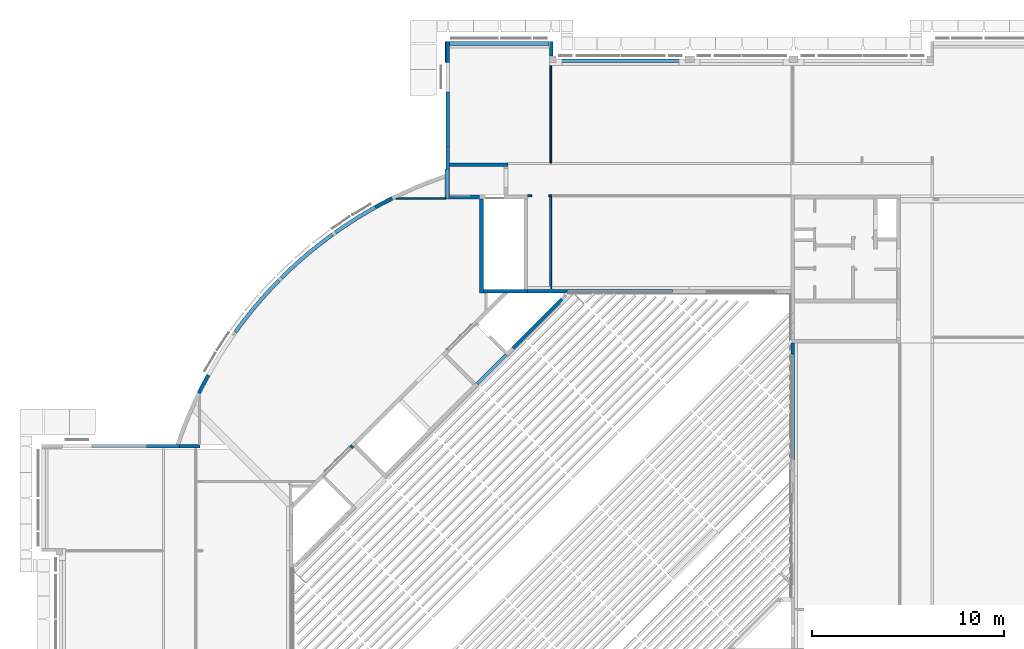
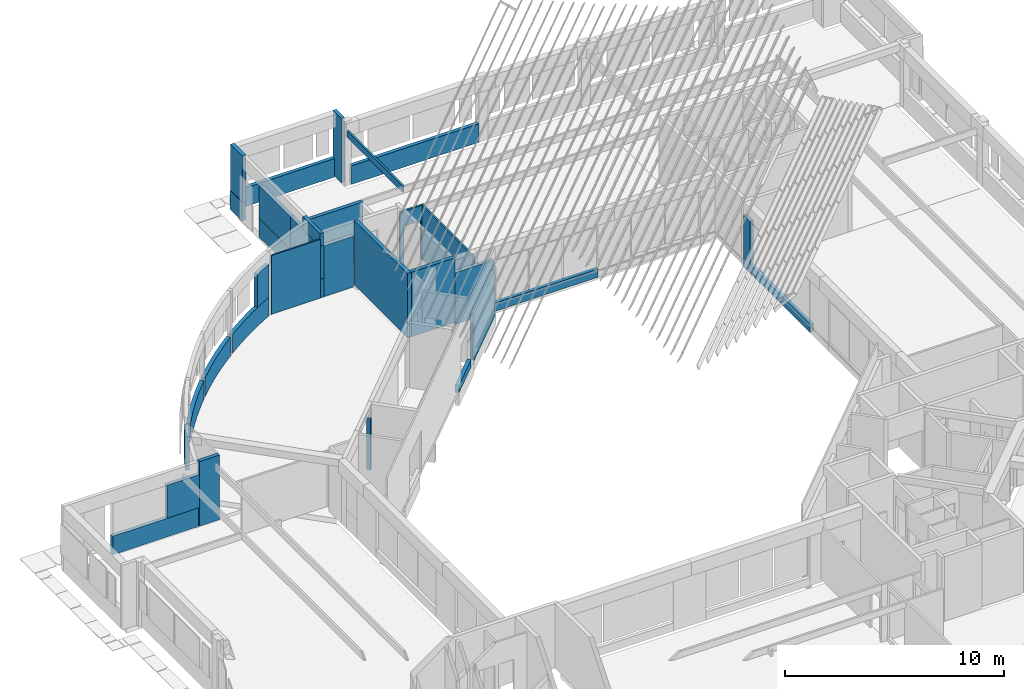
# One storey, part 29 of 37: 32 walls.
"""IFC4X3_ADD2 building model written with IfcOpenShell, lengths in millimetres."""

import ifcopenshell
import ifcopenshell.guid

model = None  # the IFC model being written
_history = None  # IfcOwnerHistory: only IFC2X3 demands one
_inside = {}  # id of a spatial element -> (the spatial element, [elements in it])
_under = {}  # id of a project, library or spatial element -> (it, [spatial elements below it])
_declared = {}  # id of a project -> (the project, [libraries it declares])
_typed = {}  # id of a type object -> (the type object, [elements of that type])
_made_of = {}  # id of a material, layer set ... -> (it, [elements and type objects made of it])


def new_model(schema):
    """Start an empty IFC model of exactly this schema.

    Asked for "IFC4X3", IfcOpenShell would pick the latest addendum, in which some entities
    have other attributes; the version numbers below select the first issue.
    IFC2X3 requires an IfcOwnerHistory on every rooted entity: one is made here for all.
    """
    global model, _history
    if schema == "IFC4X3":
        model = ifcopenshell.file(schema_version=(4, 3, 0, 0))
    else:
        model = ifcopenshell.file(schema=schema)
    _inside.clear()
    _under.clear()
    _declared.clear()
    _typed.clear()
    _made_of.clear()
    _history = None
    if model.schema == "IFC2X3":
        org = make("IfcOrganization", Name="unknown")
        user = make(
            "IfcPersonAndOrganization",
            ThePerson=make("IfcPerson", FamilyName="unknown"),
            TheOrganization=org,
        )
        app = make(
            "IfcApplication",
            ApplicationDeveloper=org,
            Version="unknown",
            ApplicationFullName="unknown",
            ApplicationIdentifier="unknown",
        )
        _history = make(
            "IfcOwnerHistory",
            OwningUser=user,
            OwningApplication=app,
            ChangeAction="ADDED",
            CreationDate=0,
        )
    return model


def make(cls, **values):
    """One entity of the class cls with the attributes given. An attribute that is None is left unset."""
    return model.create_entity(
        cls, **{name: value for name, value in values.items() if value is not None}
    )


def rooted(cls, **values):
    """An entity with a GlobalId (a new one), such as an element, a storey or a relation."""
    return make(cls, GlobalId=ifcopenshell.guid.new(), OwnerHistory=_history, **values)


def si_unit(unit_type, name, prefix=None):
    """IfcSIUnit, for example si_unit("LENGTHUNIT", "METRE", prefix="MILLI")."""
    return make("IfcSIUnit", UnitType=unit_type, Prefix=prefix, Name=name)


def assignment(units):
    """IfcUnitAssignment: the units of a project."""
    return None if units is None else make("IfcUnitAssignment", Units=units)


def point(xyz):
    """IfcCartesianPoint."""
    return None if xyz is None else make("IfcCartesianPoint", Coordinates=xyz)


def direction(xyz):
    """IfcDirection."""
    return None if xyz is None else make("IfcDirection", DirectionRatios=xyz)


def frame(location, z_axis=None, x_axis=None):
    """IfcAxis2Placement3D, a coordinate frame: its origin and axes. An axis left out is left unset."""
    return make(
        "IfcAxis2Placement3D",
        Location=point(location),
        Axis=direction(z_axis),
        RefDirection=direction(x_axis),
    )


def frame_2d(location, x_axis=None):
    """IfcAxis2Placement2D, a coordinate frame in the plane: its origin and x axis."""
    return make(
        "IfcAxis2Placement2D", Location=point(location), RefDirection=direction(x_axis)
    )


def origin_with_axes():
    """The frame at (0, 0, 0) with the z axis (0, 0, 1) and the x axis (1, 0, 0) written out."""
    return frame((0.0, 0.0, 0.0), z_axis=(0.0, 0.0, 1.0), x_axis=(1.0, 0.0, 0.0))


def origin_2d_with_axis():
    """The frame at (0, 0) in the plane with the x axis (1, 0) written out."""
    return frame_2d((0.0, 0.0), x_axis=(1.0, 0.0))


def place(relative_to, where):
    """IfcLocalPlacement: puts the frame where relative to a parent placement (None: the world)."""
    return make(
        "IfcLocalPlacement", PlacementRelTo=relative_to, RelativePlacement=where
    )


def context(
    kind, dimensions, precision=None, world=None, true_north=None, identifier=None
):
    """IfcGeometricRepresentationContext, for example the 3D "Model" context."""
    return make(
        "IfcGeometricRepresentationContext",
        ContextIdentifier=identifier,
        ContextType=kind,
        CoordinateSpaceDimension=dimensions,
        Precision=precision,
        WorldCoordinateSystem=world,
        TrueNorth=true_north,
    )


def subcontext(parent, identifier, kind, view, scale=None):
    """IfcGeometricRepresentationSubContext, for example "Body" below "Model"."""
    return make(
        "IfcGeometricRepresentationSubContext",
        ContextIdentifier=identifier,
        ContextType=kind,
        ParentContext=parent,
        TargetScale=scale,
        TargetView=view,
    )


def project(units=None, contexts=None):
    """IfcProject with its units and contexts."""
    return rooted(
        "IfcProject",
        Name="project",
        RepresentationContexts=contexts,
        UnitsInContext=assignment(units),
    )


def spatial(cls, under=None, at=None, **own):
    """A site, building, storey or space (cls), placed at a placement, below another one or the project."""
    s = rooted(cls, ObjectPlacement=at, **own)
    if under is not None:
        _under.setdefault(under.id(), (under, []))[1].append(s)
    return s


def polyline(points):
    """IfcPolyline through the points."""
    return make("IfcPolyline", Points=[point(p) for p in points])


def circle_curve(where, radius):
    """IfcCircle in the frame where."""
    return make("IfcCircle", Position=where, Radius=radius)


def trimmed(basis, trim1, trim2, sense, master):
    """IfcTrimmedCurve: the piece of a basis curve between two trims."""
    return make(
        "IfcTrimmedCurve",
        BasisCurve=basis,
        Trim1=trim1,
        Trim2=trim2,
        SenseAgreement=sense,
        MasterRepresentation=master,
    )


def segment(curve, same_sense, transition):
    """IfcCompositeCurveSegment."""
    return make(
        "IfcCompositeCurveSegment",
        Transition=transition,
        SameSense=same_sense,
        ParentCurve=curve,
    )


def composite_curve(segments, self_intersect=None):
    """IfcCompositeCurve: segments joined end to end."""
    return make("IfcCompositeCurve", Segments=segments, SelfIntersect=self_intersect)


def profile(cls, at=None, kind="AREA", **sizes):
    """A parametric profile (cls). Its sizes go by their IFC names, for example OverallWidth=200.0."""
    return make(cls, ProfileType=kind, Position=at, **sizes)


def rectangle(**sizes):
    """IfcRectangleProfileDef."""
    return profile("IfcRectangleProfileDef", **sizes)


def outline(outer, holes=None, kind="AREA"):
    """IfcArbitraryClosedProfileDef: a profile drawn as a closed curve; with holes, ...WithVoids."""
    if holes is None:
        return make("IfcArbitraryClosedProfileDef", ProfileType=kind, OuterCurve=outer)
    return make(
        "IfcArbitraryProfileDefWithVoids",
        ProfileType=kind,
        OuterCurve=outer,
        InnerCurves=holes,
    )


def extrude(swept, where, along, depth):
    """IfcExtrudedAreaSolid: the profile swept, set in the frame where, extruded along a direction by depth."""
    return make(
        "IfcExtrudedAreaSolid",
        SweptArea=swept,
        Position=where,
        ExtrudedDirection=direction(along),
        Depth=depth,
    )


def shape(context_of_items, identifier, shape_type, items):
    """IfcShapeRepresentation: the items that make up one representation, for example the "Body"."""
    return make(
        "IfcShapeRepresentation",
        ContextOfItems=context_of_items,
        RepresentationIdentifier=identifier,
        RepresentationType=shape_type,
        Items=items,
    )


def source(mapping_origin, context_of_items, identifier, shape_type, items):
    """IfcRepresentationMap: a shape defined once, which mapped items show again and again."""
    return make(
        "IfcRepresentationMap",
        MappingOrigin=mapping_origin,
        MappedRepresentation=shape(context_of_items, identifier, shape_type, items),
    )


def transform(
    local_origin,
    x_axis=None,
    y_axis=None,
    z_axis=None,
    scale=None,
    scale2=None,
    scale3=None,
    uniform=True,
):
    """IfcCartesianTransformationOperator3D, or its non-uniform kind. x_axis, y_axis, z_axis: its Axis1, 2, 3."""
    if uniform:
        return make(
            "IfcCartesianTransformationOperator3D",
            Axis1=direction(x_axis),
            Axis2=direction(y_axis),
            LocalOrigin=point(local_origin),
            Scale=scale,
            Axis3=direction(z_axis),
        )
    return make(
        "IfcCartesianTransformationOperator3DnonUniform",
        Axis1=direction(x_axis),
        Axis2=direction(y_axis),
        LocalOrigin=point(local_origin),
        Scale=scale,
        Axis3=direction(z_axis),
        Scale2=scale2,
        Scale3=scale3,
    )


def mapped(mapping_source, mapping_target):
    """IfcMappedItem: shows the shape of a source again, moved by a transform."""
    return make(
        "IfcMappedItem", MappingSource=mapping_source, MappingTarget=mapping_target
    )


def material(Name=None, Category=None):
    """IfcMaterial."""
    return make("IfcMaterial", Name=Name, Category=Category)


def made_of(thing, what):
    """Note that an element or type object is made of a material, layer set ...; save() writes the relation."""
    if what is not None:
        _made_of.setdefault(what.id(), (what, []))[1].append(thing)
    return thing


def type_object(cls, material=None, **own):
    """A type object (cls), such as IfcWallType, which elements share."""
    return made_of(rooted(cls, **own), material)


def type_shapes(of_type, sources):
    """Give a type object the sources (RepresentationMaps) that its elements show as mapped items."""
    of_type.RepresentationMaps = sources


def element(
    cls,
    number,
    at=None,
    inside=None,
    cuts=None,
    type_object=None,
    material=None,
    context=None,
    identifier="Body",
    shape_type=None,
    held_by="IfcProductDefinitionShape",
    body=None,
    shapes=None,
    **own,
):
    """One element of the class cls, such as IfcWall. Its Tag is "e" and its number.

    at: its placement. inside: the storey or other place that contains it. cuts: it is an
    opening in that element (IfcRelVoidsElement). A single representation is given by context,
    identifier, shape_type and body (its items); several are given by shapes. held_by: the class
    of the entity that holds the representations. save() writes the other relations.
    """
    e = rooted(cls, Tag="e%d" % number, ObjectPlacement=at, **own)
    if body is not None:
        shapes = [shape(context, identifier, shape_type, body)]
    if shapes is not None:
        e.Representation = make(held_by, Representations=shapes)
    if inside is not None:
        _inside.setdefault(inside.id(), (inside, []))[1].append(e)
    if cuts is not None:
        rooted(
            "IfcRelVoidsElement", RelatingBuildingElement=cuts, RelatedOpeningElement=e
        )
    if type_object is not None:
        _typed.setdefault(type_object.id(), (type_object, []))[1].append(e)
    return made_of(e, material)


def aggregate(whole, parts):
    """IfcRelAggregates: a whole, such as a stair, and the parts it consists of."""
    return rooted("IfcRelAggregates", RelatingObject=whole, RelatedObjects=parts)


def save(model, path):
    """Write the relations noted so far, then the file.

    IfcRelAggregates (storeys below a building ...), IfcRelContainedInSpatialStructure (elements
    in a storey), IfcRelDefinesByType, IfcRelAssociatesMaterial and IfcRelDeclares: one each for
    every whole, place, type object, material and project.
    """
    for whole, parts in _under.values():
        aggregate(whole, parts)
    for where, things in _inside.values():
        rooted(
            "IfcRelContainedInSpatialStructure",
            RelatedElements=things,
            RelatingStructure=where,
        )
    for kind, things in _typed.values():
        rooted("IfcRelDefinesByType", RelatedObjects=things, RelatingType=kind)
    for what, things in _made_of.values():
        rooted("IfcRelAssociatesMaterial", RelatedObjects=things, RelatingMaterial=what)
    for by, libraries in _declared.values():
        rooted("IfcRelDeclares", RelatingContext=by, RelatedDefinitions=libraries)
    model.write(path)


model = new_model("IFC4X3_ADD2")

# Units and contexts
model_context = context("Model", 3, precision=1e-05, world=origin_with_axes(), true_north=direction((0.0, 1.0)))
body_context = subcontext(model_context, "Body", "Model", "MODEL_VIEW")
ifc_project = project(units=[si_unit("LENGTHUNIT", "METRE", prefix="MILLI"), si_unit("AREAUNIT", "SQUARE_METRE"), si_unit("VOLUMEUNIT", "CUBIC_METRE"), si_unit("PLANEANGLEUNIT", "RADIAN"), si_unit("TIMEUNIT", "SECOND"), si_unit("MASSUNIT", "GRAM")], contexts=[model_context])

# Site, building, storey
site_placement = place(None, origin_with_axes())
site = spatial("IfcSite", under=ifc_project, at=site_placement, Name="Site", CompositionType="ELEMENT")
building_placement = place(site_placement, origin_with_axes())
building = spatial("IfcBuilding", under=site, at=building_placement, Name="IFC Building Story")
storey_placement = place(building_placement, frame((0.0, 0.0, 3600.0), z_axis=(0.0, 0.0, 1.0), x_axis=(1.0, 0.0, 0.0)))
storey = spatial("IfcBuildingStorey", under=building, at=storey_placement, Name="010", Elevation=3600.0)

# Walls
ifc_material_1 = material(Name="BB_Beton_Bestaand")
wall_type_1 = type_object("IfcWallType", Name="BB_Beton_Bestaand 200", PredefinedType="NOTDEFINED", material=ifc_material_1)
wall_1_placement = place(storey_placement, origin_with_axes())
element("IfcWall", 1, at=wall_1_placement, inside=storey, type_object=wall_type_1, Name="Basic Wall:BB_XX_Wand uit beton, 200 mm", ObjectType="Basic Wall:BB_XX_Wand uit beton, 200 mm", PredefinedType="SOLIDWALL", context=body_context, shape_type="SweptSolid", body=[
    extrude(rectangle(XDim=4900.004065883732, YDim=200.0, at=frame_2d((0.0, 0.0), x_axis=(0.0, 1.0))), frame((-28800.0, 41049.99796705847, -80.0), z_axis=(0.0, 0.0, 1.0), x_axis=(1.0, 0.0, 0.0)), (0.0, 0.0, 1.0), 3600.0),
])
wall_2_placement = place(storey_placement, origin_with_axes())
element("IfcWall", 2, at=wall_2_placement, inside=storey, type_object=wall_type_1, Name="Basic Wall:BB_XX_Wand uit beton, 200 mm", ObjectType="Basic Wall:BB_XX_Wand uit beton, 200 mm", PredefinedType="SOLIDWALL", context=body_context, shape_type="SweptSolid", body=[
    extrude(rectangle(XDim=2299.999999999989, YDim=200.0, at=origin_2d_with_axis()), frame((-27550.0, 38699.9959341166, -80.0), z_axis=(0.0, 0.0, 1.0), x_axis=(1.0, 0.0, 0.0)), (0.0, 0.0, 1.0), 3600.0),
])
wall_3_placement = place(storey_placement, origin_with_axes())
element("IfcWall", 3, at=wall_3_placement, inside=storey, type_object=wall_type_1, Name="Basic Wall:BB_XX_Wand uit beton, 200 mm", ObjectType="Basic Wall:BB_XX_Wand uit beton, 200 mm", PredefinedType="SOLIDWALL", context=body_context, shape_type="SweptSolid", body=[
    extrude(outline(composite_curve([segment(polyline([(-1251.023506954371, -1193.744815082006), (-1392.002352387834, -1051.882328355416)]), True, "CONTINUOUS"), segment(trimmed(circle_curve(frame_2d((14368.14825191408, -16910.81597924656), x_axis=(1.0, 0.0)), 22358.17800299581), [point((-1392.002352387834, -1051.882328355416))], [point((1262.897910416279, 1203.833813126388))], False, "CARTESIAN"), True, "CONTINUOUS"), segment(polyline([(1262.897910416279, 1203.833813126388), (1380.127948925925, 1041.793330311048)]), True, "CONTINUOUS"), segment(trimmed(circle_curve(frame_2d((14368.14825191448, -16910.81597924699), x_axis=(1.0, 0.0)), 22158.17800299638), [point((1380.127948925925, 1041.793330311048))], [point((-1251.023506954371, -1193.744815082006))], True, "CARTESIAN"), True, "CONTINUOUS")], self_intersect=False)), frame((-37884.99629807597, 40529.06922303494, -200.0), z_axis=(0.0, 0.0, 1.0), x_axis=(1.0, 0.0, 0.0)), (0.0, 0.0, 1.0), 1040.0),
])
wall_4_placement = place(storey_placement, origin_with_axes())
element("IfcWall", 4, at=wall_4_placement, inside=storey, type_object=wall_type_1, Name="Basic Wall:BB_XX_Wand uit beton, 200 mm", ObjectType="Basic Wall:BB_XX_Wand uit beton, 200 mm", PredefinedType="SOLIDWALL", context=body_context, shape_type="SweptSolid", body=[
    extrude(outline(composite_curve([segment(polyline([(-1048.715508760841, -1398.380317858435), (-1211.293963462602, -1281.897503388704)]), True, "CONTINUOUS"), segment(trimmed(circle_curve(frame_2d((16963.49618491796, -14303.61500439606), x_axis=(1.0, 0.0)), 22358.1780029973), [point((-1211.293963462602, -1281.897503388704))], [point((1058.86912273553, 1410.422084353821))], False, "CARTESIAN"), True, "CONTINUOUS"), segment(polyline([(1058.86912273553, 1410.422084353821), (1201.140349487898, 1269.85573689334)]), True, "CONTINUOUS"), segment(trimmed(circle_curve(frame_2d((16963.49618491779, -14303.61500439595), x_axis=(1.0, 0.0)), 22158.17800299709), [point((1201.140349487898, 1269.85573689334))], [point((-1048.715508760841, -1398.380317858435))], True, "CARTESIAN"), True, "CONTINUOUS")], self_intersect=False)), frame((-40480.34423107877, 37921.86824818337, -200.0), z_axis=(0.0, 0.0, 1.0), x_axis=(1.0, 0.0, 0.0)), (0.0, 0.0, 1.0), 1040.0),
])
wall_5_placement = place(storey_placement, origin_with_axes())
element("IfcWall", 5, at=wall_5_placement, inside=storey, type_object=wall_type_1, Name="Basic Wall:BB_XX_Wand uit beton, 200 mm", ObjectType="Basic Wall:BB_XX_Wand uit beton, 200 mm", PredefinedType="SOLIDWALL", context=body_context, shape_type="SweptSolid", body=[
    extrude(outline(composite_curve([segment(polyline([(-1417.590394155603, -965.8006909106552), (-1533.351921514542, -802.7078683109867)]), True, "CONTINUOUS"), segment(trimmed(circle_curve(frame_2d((11407.73225144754, -19034.99966177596), x_axis=(1.0, 0.0)), 22358.17800299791), [point((-1533.351921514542, -802.7078683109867))], [point((1430.848183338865, 973.7461236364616))], False, "CARTESIAN"), True, "CONTINUOUS"), segment(polyline([(1430.848183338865, 973.7461236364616), (1520.094132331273, 794.7624355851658)]), True, "CONTINUOUS"), segment(trimmed(circle_curve(frame_2d((11407.7322514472, -19034.99966177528), x_axis=(1.0, 0.0)), 22158.17800299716), [point((1520.094132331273, 794.7624355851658))], [point((-1417.590394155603, -965.8006909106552))], True, "CARTESIAN"), True, "CONTINUOUS")], self_intersect=False)), frame((-34924.58029760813, 42653.25290556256, -200.0), z_axis=(0.0, 0.0, 1.0), x_axis=(1.0, 0.0, 0.0)), (0.0, 0.0, 1.0), 1040.0),
])
wall_type_2 = type_object("IfcWallType", Name="BB_Beton_Bestaand 190", PredefinedType="NOTDEFINED", material=ifc_material_1)
wall_6_placement = place(storey_placement, origin_with_axes())
element("IfcWall", 6, at=wall_6_placement, inside=storey, type_object=wall_type_2, Name="Basic Wall:BB_XX_Wand uit beton, 190 mm", ObjectType="Basic Wall:BB_XX_Wand uit beton, 190 mm", PredefinedType="SOLIDWALL", context=body_context, shape_type="SweptSolid", body=[
    extrude(rectangle(XDim=6710.000000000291, YDim=189.9999999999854, at=origin_2d_with_axis()), frame((-21565.00000000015, 50700.0, -200.0), z_axis=(0.0, 0.0, 1.0), x_axis=(1.0, 0.0, 0.0)), (0.0, 0.0, 1.0), 1040.0),
])
wall_7_placement = place(storey_placement, origin_with_axes())
element("IfcWall", 7, at=wall_7_placement, inside=storey, type_object=wall_type_2, Name="Basic Wall:BB_XX_Wand uit beton, 190 mm", ObjectType="Basic Wall:BB_XX_Wand uit beton, 190 mm", PredefinedType="SOLIDWALL", context=body_context, shape_type="SweptSolid", body=[
    extrude(rectangle(XDim=5585.000000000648, YDim=190.0, at=frame_2d((0.0, 0.0), x_axis=(0.0, 1.0))), frame((-30565.0, 46292.50000000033, -200.0), z_axis=(0.0, 0.0, 1.0), x_axis=(1.0, 0.0, 0.0)), (0.0, 0.0, 1.0), 1040.0),
])
wall_8_placement = place(storey_placement, origin_with_axes())
element("IfcWall", 8, at=wall_8_placement, inside=storey, type_object=wall_type_2, Name="Basic Wall:BB_XX_Wand uit beton, 190 mm", ObjectType="Basic Wall:BB_XX_Wand uit beton, 190 mm", PredefinedType="SOLIDWALL", context=body_context, shape_type="SweptSolid", body=[
    extrude(rectangle(XDim=5210.000000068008, YDim=189.9999999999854, at=origin_2d_with_axis()), frame((-27899.999999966, 51600.0, -200.0), z_axis=(0.0, 0.0, 1.0), x_axis=(1.0, 0.0, 0.0)), (0.0, 0.0, 1.0), 1040.0),
])
wall_9_placement = place(storey_placement, origin_with_axes())
element("IfcWall", 9, at=wall_9_placement, inside=storey, type_object=wall_type_2, Name="Basic Wall:BB_XX_Wand uit beton, 190 mm", ObjectType="Basic Wall:BB_XX_Wand uit beton, 190 mm", PredefinedType="SOLIDWALL", context=body_context, shape_type="SweptSolid", body=[
    extrude(rectangle(XDim=1090.000000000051, YDim=190.0, at=frame_2d((0.0, 0.0), x_axis=(0.0, 1.0))), frame((-30565.0, 51150.00000000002, 840.0), z_axis=(0.0, 0.0, 1.0), x_axis=(1.0, 0.0, 0.0)), (0.0, 0.0, 1.0), 2560.0),
])
wall_10_placement = place(storey_placement, origin_with_axes())
element("IfcWall", 10, at=wall_10_placement, inside=storey, type_object=wall_type_2, Name="Basic Wall:BB_XX_Wand uit beton, 190 mm", ObjectType="Basic Wall:BB_XX_Wand uit beton, 190 mm", PredefinedType="SOLIDWALL", context=body_context, shape_type="SweptSolid", body=[
    extrude(rectangle(XDim=2055.000000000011, YDim=190.0, at=origin_2d_with_axis()), frame((-25372.5, 38699.9959341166, -200.0), z_axis=(0.0, 0.0, 1.0), x_axis=(1.0, 0.0, 0.0)), (0.0, 0.0, 1.0), 2880.0),
])
wall_11_placement = place(storey_placement, origin_with_axes())
element("IfcWall", 11, at=wall_11_placement, inside=storey, type_object=wall_type_2, Name="Basic Wall:BB_XX_Wand uit beton, 190 mm", ObjectType="Basic Wall:BB_XX_Wand uit beton, 190 mm", PredefinedType="SOLIDWALL", context=body_context, shape_type="SweptSolid", body=[
    extrude(rectangle(XDim=554.9999999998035, YDim=190.0, at=frame_2d((0.0, 0.0), x_axis=(0.0, 1.0))), frame((-12600.0040658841, 35722.4999999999, -200.0), z_axis=(0.0, 0.0, 1.0), x_axis=(1.0, 0.0, 0.0)), (0.0, 0.0, 1.0), 2880.0),
])
wall_12_placement = place(storey_placement, origin_with_axes())
element("IfcWall", 12, at=wall_12_placement, inside=storey, type_object=wall_type_2, Name="Basic Wall:BB_XX_Wand uit beton, 190 mm", ObjectType="Basic Wall:BB_XX_Wand uit beton, 190 mm", PredefinedType="SOLIDWALL", context=body_context, shape_type="SweptSolid", body=[
    extrude(rectangle(XDim=1090.000000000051, YDim=190.0, at=frame_2d((0.0, 0.0), x_axis=(0.0, 1.0))), frame((-30600.0, 51150.00000000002, -200.0), z_axis=(0.0, 0.0, 1.0), x_axis=(1.0, 0.0, 0.0)), (0.0, 0.0, 1.0), 1040.0),
])
wall_13_placement = place(storey_placement, origin_with_axes())
element("IfcWall", 13, at=wall_13_placement, inside=storey, type_object=wall_type_2, Name="Basic Wall:BB_XX_Wand uit beton, 190 mm", ObjectType="Basic Wall:BB_XX_Wand uit beton, 190 mm", PredefinedType="SOLIDWALL", context=body_context, shape_type="SweptSolid", body=[
    extrude(outline(composite_curve([segment(polyline([(-20907.29715946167, 6847.256785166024), (-25426.05542121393, 6847.256785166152)]), True, "CONTINUOUS"), segment(polyline([(-25426.05542121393, 6847.256785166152), (-25426.05542121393, 7037.256785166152)]), True, "CONTINUOUS"), segment(polyline([(-25426.05542121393, 7037.256785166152), (-20844.11228466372, 7037.256785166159)]), True, "CONTINUOUS"), segment(trimmed(circle_curve(origin_2d_with_axis(), 21999.99999990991), [point((-20844.11228466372, 7037.256785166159))], [point((-20907.29715946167, 6847.256785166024))], True, "CARTESIAN"), True, "CONTINUOUS")], self_intersect=False)), frame((-23658.94457878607, 23687.74321483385, -200.0), z_axis=(0.0, 0.0, 1.0), x_axis=(1.0, 0.0, 0.0)), (0.0, 0.0, 1.0), 1040.0),
])
wall_14_placement = place(storey_placement, origin_with_axes())
element("IfcWall", 14, at=wall_14_placement, inside=storey, type_object=wall_type_2, Name="Basic Wall:BB_XX_Wand uit beton, 190 mm", ObjectType="Basic Wall:BB_XX_Wand uit beton, 190 mm", PredefinedType="SOLIDWALL", context=body_context, shape_type="SweptSolid", body=[
    extrude(rectangle(XDim=5490.000000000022, YDim=190.0, at=frame_2d((0.0, 0.0), x_axis=(0.0, 1.0))), frame((-12600.0040658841, 32700.00000000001, -200.0), z_axis=(0.0, 0.0, 1.0), x_axis=(1.0, 0.0, 0.0)), (0.0, 0.0, 1.0), 449.999999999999),
])
wall_15_placement = place(storey_placement, origin_with_axes())
element("IfcWall", 15, at=wall_15_placement, inside=storey, type_object=wall_type_2, Name="Basic Wall:BB_XX_Wand uit beton, 190 mm", ObjectType="Basic Wall:BB_XX_Wand uit beton, 190 mm", PredefinedType="SOLIDWALL", context=body_context, shape_type="SweptSolid", body=[
    extrude(rectangle(XDim=5490.0, YDim=190.0, at=origin_2d_with_axis()), frame((-21600.0, 38699.9959341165, -200.0), z_axis=(0.0, 0.0, 1.0), x_axis=(1.0, 0.0, 0.0)), (0.0, 0.0, 1.0), 449.999999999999),
])
wall_type_3 = type_object("IfcWallType", Name="BB_Beton_Bestaand 170", PredefinedType="NOTDEFINED", material=ifc_material_1)
wall_16_placement = place(storey_placement, origin_with_axes())
element("IfcWall", 16, at=wall_16_placement, inside=storey, type_object=wall_type_3, Name="Basic Wall:BB_XX_Wand uit beton, 170 mm", ObjectType="Basic Wall:BB_XX_Wand uit beton, 170 mm", PredefinedType="SOLIDWALL", context=body_context, shape_type="SweptSolid", body=[
    extrude(rectangle(XDim=749.999999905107, YDim=169.9999999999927, at=frame_2d((0.0, 0.0), x_axis=(0.0, 1.0))), frame((-25175.0, 51320.00000004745, -200.0), z_axis=(0.0, 0.0, 1.0), x_axis=(1.0, 0.0, 0.0)), (0.0, 0.0, 1.0), 3600.0),
])
ifc_material_2 = material(Name="BB_Metselwerk_Bestaand")
wall_type_4 = type_object("IfcWallType", Name="BB_Metselwerk_Bestaand 190", PredefinedType="NOTDEFINED", material=ifc_material_2)
wall_17_placement = place(storey_placement, origin_with_axes())
element("IfcWall", 17, at=wall_17_placement, inside=storey, type_object=wall_type_4, Name="Basic Wall:BB_XX_Wand uit metselwerk, 190 mm", ObjectType="Basic Wall:BB_XX_Wand uit metselwerk, 190 mm", PredefinedType="SOLIDWALL", context=body_context, shape_type="SweptSolid", body=[
    extrude(rectangle(XDim=2725.0, YDim=190.0, at=frame_2d((0.0, 0.0), x_axis=(0.0, 1.0))), frame((-30565.0, 44872.5, 840.0), z_axis=(0.0, 0.0, 1.0), x_axis=(1.0, 0.0, 0.0)), (0.0, 0.0, 1.0), 1840.0),
])
wall_18_placement = place(storey_placement, origin_with_axes())
element("IfcWall", 18, at=wall_18_placement, inside=storey, type_object=wall_type_4, Name="Basic Wall:BB_XX_Wand uit metselwerk, 190 mm", ObjectType="Basic Wall:BB_XX_Wand uit metselwerk, 190 mm", PredefinedType="SOLIDWALL", context=body_context, shape_type="SweptSolid", body=[
    extrude(rectangle(XDim=1574.999999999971, YDim=190.0, at=frame_2d((0.0, 0.0), x_axis=(0.0, 1.0))), frame((-30600.0, 44287.49999999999, 2680.0), z_axis=(0.0, 0.0, 1.0), x_axis=(1.0, 0.0, 0.0)), (0.0, 0.0, 1.0), 720.000000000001),
])
wall_19_placement = place(storey_placement, origin_with_axes())
element("IfcWall", 19, at=wall_19_placement, inside=storey, type_object=wall_type_4, Name="Basic Wall:BB_XX_Wand uit metselwerk, 190 mm", ObjectType="Basic Wall:BB_XX_Wand uit metselwerk, 190 mm", PredefinedType="SOLIDWALL", context=body_context, shape_type="SweptSolid", body=[
    extrude(rectangle(XDim=1728.184999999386, YDim=190.0, at=origin_2d_with_axis()), frame((-45370.90750000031, 30630.0, 840.0), z_axis=(0.0, 0.0, 1.0), x_axis=(1.0, 0.0, 0.0)), (0.0, 0.0, 1.0), 1840.0),
])
wall_20_placement = place(storey_placement, origin_with_axes())
element("IfcWall", 20, at=wall_20_placement, inside=storey, type_object=wall_type_4, Name="Basic Wall:BB_XX_Wand uit metselwerk, 190 mm", ObjectType="Basic Wall:BB_XX_Wand uit metselwerk, 190 mm", PredefinedType="SOLIDWALL", context=body_context, shape_type="SweptSolid", body=[
    extrude(rectangle(XDim=1570.000000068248, YDim=189.9999999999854, at=origin_2d_with_axis()), frame((-29684.99999996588, 43605.0, -200.0), z_axis=(0.0, 0.0, 1.0), x_axis=(1.0, 0.0, 0.0)), (0.0, 0.0, 1.0), 2830.0),
])
ifc_material_3 = material(Name="BB_Metselwerk_Betonsteen")
wall_type_5 = type_object("IfcWallType", Name="BB_Metselwerk_Betonsteen 190", PredefinedType="NOTDEFINED", material=ifc_material_3)
wall_21_placement = place(storey_placement, origin_with_axes())
element("IfcWall", 21, at=wall_21_placement, inside=storey, type_object=wall_type_5, Name="Basic Wall:BB_03.09.24#03_Wand uit metselwerk, 190 mm", ObjectType="Basic Wall:BB_03.09.24#03_Wand uit metselwerk, 190 mm", PredefinedType="SOLIDWALL", context=body_context, shape_type="SweptSolid", body=[
    extrude(outline(composite_curve([segment(polyline([(160.5457515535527, 515.4411851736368), (327.0362069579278, 423.8937752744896)]), True, "CONTINUOUS"), segment(trimmed(circle_curve(frame_2d((19604.87841176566, -10176.33263413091), x_axis=(1.0, 0.0)), 22000.00000009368), [point((327.0362069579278, 423.8937752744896))], [point((-158.4493367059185, -511.4024062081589))], True, "CARTESIAN"), True, "CONTINUOUS"), segment(polyline([(-158.4493367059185, -511.4024062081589), (-329.1326218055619, -427.9325542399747)]), True, "CONTINUOUS"), segment(trimmed(circle_curve(frame_2d((19604.87841173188, -10176.33263411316), x_axis=(1.0, 0.0)), 22190.00000005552), [point((-329.1326218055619, -427.9325542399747))], [point((160.5457515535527, 515.4411851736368))], False, "CARTESIAN"), True, "CONTINUOUS")], self_intersect=False)), frame((-43263.82150095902, 33864.07889442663, 840.0), z_axis=(0.0, 0.0, 1.0), x_axis=(1.0, 0.0, 0.0)), (0.0, 0.0, 1.0), 1840.0),
])
wall_22_placement = place(storey_placement, origin_with_axes())
element("IfcWall", 22, at=wall_22_placement, inside=storey, type_object=wall_type_5, Name="Basic Wall:BB_03.09.24#03_Wand uit metselwerk, 190 mm", ObjectType="Basic Wall:BB_03.09.24#03_Wand uit metselwerk, 190 mm", PredefinedType="SOLIDWALL", context=body_context, shape_type="SweptSolid", body=[
    extrude(outline(composite_curve([segment(polyline([(387.8674962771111, 311.4556367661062), (472.6602669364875, 141.4256804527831)]), True, "CONTINUOUS"), segment(trimmed(circle_curve(frame_2d((10361.36187557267, -19687.80609760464), x_axis=(1.0, 0.0)), 22158.17800299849), [point((472.6602669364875, 141.4256804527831))], [point((-384.1938575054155, -309.5222623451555))], True, "CARTESIAN"), True, "CONTINUOUS"), segment(polyline([(-384.1938575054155, -309.5222623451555), (-476.3339057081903, -143.3590548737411)]), True, "CONTINUOUS"), segment(trimmed(circle_curve(frame_2d((10361.36187557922, -19687.80609761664), x_axis=(1.0, 0.0)), 22348.17800301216), [point((-476.3339057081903, -143.3590548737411))], [point((387.8674962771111, 311.4556367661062))], False, "CARTESIAN"), True, "CONTINUOUS")], self_intersect=False)), frame((-33878.20992173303, 43306.05934139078, 840.0), z_axis=(0.0, 0.0, 1.0), x_axis=(1.0, 0.0, 0.0)), (0.0, 0.0, 1.0), 1840.0),
])
wall_23_placement = place(storey_placement, origin_with_axes())
element("IfcWall", 23, at=wall_23_placement, inside=storey, type_object=wall_type_5, Name="Basic Wall:BB_03.09.24#03_Wand uit metselwerk, 190 mm", ObjectType="Basic Wall:BB_03.09.24#03_Wand uit metselwerk, 190 mm", PredefinedType="SOLIDWALL", context=body_context, shape_type="SweptSolid", body=[
    extrude(rectangle(XDim=2850.00000000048, YDim=190.0, at=frame_2d((0.0, 0.0), x_axis=(0.0, 1.0))), frame((-30565.0, 47660.00000000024, 840.0), z_axis=(0.0, 0.0, 1.0), x_axis=(1.0, 0.0, 0.0)), (0.0, 0.0, 1.0), 1840.0),
])
wall_24_placement = place(storey_placement, origin_with_axes())
element("IfcWall", 24, at=wall_24_placement, inside=storey, type_object=wall_type_5, Name="Basic Wall:BB_03.09.24#05_Wand uit metselwerk_EI60, 190 mm", ObjectType="Basic Wall:BB_03.09.24#05_Wand uit metselwerk_EI60, 190 mm", PredefinedType="SOLIDWALL", context=body_context, shape_type="SweptSolid", body=[
    extrude(rectangle(XDim=3035.0, YDim=189.9999999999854, at=origin_2d_with_axis()), frame((-28952.5, 45290.0, -200.0), z_axis=(0.0, 0.0, 1.0), x_axis=(1.0, 0.0, 0.0)), (0.0, 0.0, 1.0), 3200.0),
])
wall_25_placement = place(storey_placement, origin_with_axes())
element("IfcWall", 25, at=wall_25_placement, inside=storey, type_object=wall_type_5, Name="Basic Wall:BB_03.09.24#03_Wand uit metselwerk, 190 mm", ObjectType="Basic Wall:BB_03.09.24#03_Wand uit metselwerk, 190 mm", PredefinedType="SOLIDWALL", context=body_context, shape_type="SweptSolid", body=[
    extrude(rectangle(XDim=2129.999999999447, YDim=190.0000000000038, at=frame_2d((0.0, 0.0), x_axis=(0.7071067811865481, 0.7071067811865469))), frame((-28265.34614789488, 34629.30717857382, -200.0), z_axis=(0.0, 0.0, 1.0), x_axis=(1.0, 0.0, 0.0)), (0.0, 0.0, 1.0), 415.0),
])
wall_26_placement = place(storey_placement, origin_with_axes())
element("IfcWall", 26, at=wall_26_placement, inside=storey, type_object=wall_type_5, Name="Basic Wall:BB_03.09.24#03_Wand uit metselwerk, 190 mm", ObjectType="Basic Wall:BB_03.09.24#03_Wand uit metselwerk, 190 mm", PredefinedType="SOLIDWALL", context=body_context, shape_type="SweptSolid", body=[
    extrude(rectangle(XDim=1056.815000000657, YDim=190.0, at=origin_2d_with_axis()), frame((-43978.40750000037, 30630.0, -200.0), z_axis=(0.0, 0.0, 1.0), x_axis=(1.0, 0.0, 0.0)), (0.0, 0.0, 1.0), 3600.0),
])
wall_type_6 = type_object("IfcWallType", Name="Basic Wall_BB_03.09.24#05_Wand uit metselwerk_EI60_ 190 mm", PredefinedType="NOTDEFINED")
shared_shape_1 = source(origin_with_axes(), body_context, "Body", "SweptSolid", [
    extrude(rectangle(XDim=3603.3129017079, YDim=190.0000000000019, at=origin_2d_with_axis()), frame((1801.65645085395, 0.0, 0.0), z_axis=(0.0, 0.0, 1.0), x_axis=(1.0, 0.0, 0.0)), (0.0, 0.0, 1.0), 2600.0),
    extrude(outline(polyline([(-0.731070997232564, 0.7310709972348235), (1.462141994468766, 0.7310709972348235), (-0.7310709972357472, -1.462141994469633), (-0.731070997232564, 0.7310709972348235)])), frame((3804.043972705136, 94.26892900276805, 0.0), z_axis=(0.0, 0.0, 1.0), x_axis=(1.0, 0.0, 0.0)), (0.0, 0.0, 1.0), 2600.0),
])
type_shapes(wall_type_6, [shared_shape_1])
wall_27_placement = place(storey_placement, frame((-27158.7240353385, 35735.9292911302, -200.0), z_axis=(0.0, 0.0, 1.0), x_axis=(0.7071067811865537, 0.7071067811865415, 0.0)))
element("IfcWall", 27, at=wall_27_placement, inside=storey, type_object=wall_type_6, material=ifc_material_3, Name="Basic Wall:BB_03.09.24#05_Wand uit metselwerk_EI60, 190 mm", ObjectType="Basic Wall:BB_03.09.24#05_Wand uit metselwerk_EI60, 190 mm", PredefinedType="SOLIDWALL", context=body_context, shape_type="MappedRepresentation", body=[
    mapped(shared_shape_1, transform((0.0, 0.0, 0.0))),
])
wall_type_7 = type_object("IfcWallType", Name="Basic Wall_BB_10.01.41#01_Gipskartonwand_MS100 _ 25.50.25_ 100 mm23", PredefinedType="NOTDEFINED")
shared_shape_2 = source(origin_with_axes(), body_context, "Body", "SweptSolid", [
    extrude(outline(polyline([(-639.9999999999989, 1292.500000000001), (-429.9999999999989, 1292.5), (-429.999999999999, -872.500000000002), (460.000000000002, -872.500000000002), (460.0000000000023, 1292.500000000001), (609.9999999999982, 1292.500000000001), (609.999999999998, -1712.499999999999), (-640.0000000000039, -1712.499999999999), (-639.9999999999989, 1292.500000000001)])), frame((640.0, 37.50000000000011, 1292.500000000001), z_axis=(0.0, 1.0, 0.0), x_axis=(1.0, 0.0, 0.0)), (0.0, 0.0, 1.0), 12.49999999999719),
    extrude(outline(polyline([(-636.8750000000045, 1292.500000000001), (-426.8749999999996, 1292.5), (-426.8749999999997, -872.500000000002), (463.1250000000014, -872.500000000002), (463.1250000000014, 1292.500000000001), (600.6250000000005, 1292.500000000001), (600.6250000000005, -1712.499999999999), (-636.8749999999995, -1712.499999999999), (-636.8750000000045, 1292.500000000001)])), frame((636.8749999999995, 25.0, 1292.500000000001), z_axis=(0.0, 1.0, 0.0), x_axis=(1.0, 0.0, 0.0)), (0.0, 0.0, 1.0), 12.49999999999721),
    extrude(outline(polyline([(-633.75, 1292.500000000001), (-423.75, 1292.5), (-423.75, -872.500000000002), (466.2500000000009, -872.500000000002), (466.2500000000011, 1292.500000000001), (591.2499999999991, 1292.500000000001), (591.2499999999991, -1712.499999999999), (-633.75, -1712.499999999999), (-633.75, 1292.500000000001)])), frame((633.75, -25.0, 1292.500000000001), z_axis=(0.0, 1.0, 0.0), x_axis=(1.0, 0.0, 0.0)), (0.0, 0.0, 1.0), 50.000000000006),
    extrude(outline(polyline([(-621.2499999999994, 1292.500000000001), (-411.2499999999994, 1292.500000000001), (-411.2499999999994, -872.5000000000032), (478.7500000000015, -872.5000000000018), (478.7500000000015, 1292.500000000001), (553.7499999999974, 1292.500000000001), (553.7499999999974, -1712.499999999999), (-621.2499999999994, -1712.499999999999), (-621.2499999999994, 1292.500000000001)])), frame((621.2499999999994, -37.4999999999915, 1292.500000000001), z_axis=(0.0, 1.0, 0.0), x_axis=(1.0, 0.0, 0.0)), (0.0, 0.0, 1.0), 12.4999999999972),
    extrude(outline(polyline([(-618.1250000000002, -1712.499999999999), (-618.1250000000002, 1292.500000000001), (-408.1250000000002, 1292.500000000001), (-408.1250000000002, -872.5000000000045), (481.8750000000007, -872.5000000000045), (481.8750000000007, 1292.500000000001), (544.3749999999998, 1292.500000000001), (544.3749999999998, -1712.499999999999), (-618.1250000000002, -1712.499999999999)])), frame((618.1250000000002, -50.0, 1292.500000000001), z_axis=(0.0, 1.0, 0.0), x_axis=(1.0, 0.0, 0.0)), (0.0, 0.0, 1.0), 12.5000000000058),
])
type_shapes(wall_type_7, [shared_shape_2])
wall_28_placement = place(storey_placement, frame((-26400.0, 43665.0, -5.0), z_axis=(0.0, 0.0, 1.0), x_axis=(1.0, 0.0, 0.0)))
element("IfcWall", 28, at=wall_28_placement, inside=storey, type_object=wall_type_7, Name="Basic Wall:BB_10.01.41#01_Gipskartonwand_MS100 / 25.50.25, 100 mm", ObjectType="Basic Wall:BB_10.01.41#01_Gipskartonwand_MS100 / 25.50.25, 100 mm", PredefinedType="PARTITIONING", context=body_context, shape_type="MappedRepresentation", body=[
    mapped(shared_shape_2, transform((0.0, 0.0, 0.0))),
])
wall_type_8 = type_object("IfcWallType", Name="Basic Wall_BB_10.01.41#01_Gipskartonwand_MS100 _ 25.50.25_ 100 mm25", PredefinedType="NOTDEFINED")
shared_shape_3 = source(origin_with_axes(), body_context, "Body", "SweptSolid", [
    extrude(outline(polyline([(-3634.376016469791, 2102.499999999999), (1248.123983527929, 2102.499999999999), (1248.123983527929, -582.5000000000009), (1273.128049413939, -582.5000000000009), (1273.128049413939, -617.4999999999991), (1113.123983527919, -617.4999999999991), (1113.123983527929, -902.4999999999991), (-3634.376016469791, -902.4999999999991), (-3634.376016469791, 2102.499999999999)])), frame((3546.876016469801, 37.50000000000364, 2102.499999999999), z_axis=(0.0, 1.0, 0.0), x_axis=(1.0, 0.0, 0.0)), (0.0, 0.0, 1.0), 12.5),
    extrude(outline(polyline([(-3625.001016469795, 2102.499999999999), (1244.998983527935, 2102.499999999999), (1244.998983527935, -582.5000000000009), (1270.003049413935, -582.5000000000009), (1270.003049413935, -617.4999999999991), (1109.998983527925, -617.4999999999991), (1109.998983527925, -902.4999999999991), (-3625.001016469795, -902.4999999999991), (-3625.001016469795, 2102.499999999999)])), frame((3550.001016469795, 25.0, 2102.499999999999), z_axis=(0.0, 1.0, 0.0), x_axis=(1.0, 0.0, 0.0)), (0.0, 0.0, 1.0), 12.5),
    extrude(outline(polyline([(-3590.001016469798, 2102.499999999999), (1229.998983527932, 2102.499999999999), (1229.998983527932, -582.5000000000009), (1255.003049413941, -582.5000000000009), (1255.003049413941, -617.4999999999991), (1104.998983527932, -617.4999999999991), (1104.998983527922, -902.4999999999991), (-3590.001016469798, -902.4999999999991), (-3590.001016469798, 2102.499999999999)])), frame((3565.001016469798, -25.0, 2102.499999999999), z_axis=(0.0, 1.0, 0.0), x_axis=(1.0, 0.0, 0.0)), (0.0, 0.0, 1.0), 49.99999999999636),
    extrude(outline(polyline([(-3578.126016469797, 2102.499999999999), (1229.373983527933, 2102.499999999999), (1229.373983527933, -582.5000000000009), (1254.378049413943, -582.5000000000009), (1254.378049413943, -617.4999999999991), (1094.373983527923, -617.4999999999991), (1094.373983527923, -902.4999999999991), (-3578.126016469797, -902.4999999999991), (-3578.126016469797, 2102.499999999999)])), frame((3565.626016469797, -37.5, 2102.499999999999), z_axis=(0.0, 1.0, 0.0), x_axis=(1.0, 0.0, 0.0)), (0.0, 0.0, 1.0), 12.5),
    extrude(outline(polyline([(-3568.7510164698, -902.4999999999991), (-3568.7510164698, 2102.5), (1226.24898352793, 2102.5), (1226.248983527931, -582.5000000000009), (1251.253049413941, -582.5000000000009), (1251.253049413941, -617.4999999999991), (1091.24898352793, -617.4999999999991), (1091.24898352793, -902.4999999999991), (-3568.7510164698, -902.4999999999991)])), frame((3568.7510164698, -50.0, 2102.5), z_axis=(0.0, 1.0, 0.0), x_axis=(1.0, 0.0, 0.0)), (0.0, 0.0, 1.0), 12.5),
])
type_shapes(wall_type_8, [shared_shape_3])
wall_29_placement = place(storey_placement, frame((-25200.0, 43615.0, -5.0), z_axis=(0.0, 0.0, 1.0), x_axis=(0.0, -1.0, 0.0)))
element("IfcWall", 29, at=wall_29_placement, inside=storey, type_object=wall_type_8, Name="Basic Wall:BB_10.01.41#01_Gipskartonwand_MS100 / 25.50.25, 100 mm", ObjectType="Basic Wall:BB_10.01.41#01_Gipskartonwand_MS100 / 25.50.25, 100 mm", PredefinedType="PARTITIONING", context=body_context, shape_type="MappedRepresentation", body=[
    mapped(shared_shape_3, transform((0.0, 0.0, 0.0))),
])
wall_type_9 = type_object("IfcWallType", Name="Basic Wall_BB_10.01.41#01_Gipskartonwand_MS100 _ 25.50.25_ 100 mm67", PredefinedType="NOTDEFINED")
shared_shape_4 = source(origin_with_axes(), body_context, "Body", "SweptSolid", [
    extrude(rectangle(XDim=5045.00000000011, YDim=12.50000000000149, at=origin_2d_with_axis()), frame((2522.500000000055, 43.75000000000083, 0.0), z_axis=(0.0, 0.0, 1.0), x_axis=(1.0, 0.0, 0.0)), (0.0, 0.0, 1.0), 359.999999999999),
    extrude(rectangle(XDim=5045.00000000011, YDim=12.50000000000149, at=origin_2d_with_axis()), frame((2522.500000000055, 31.24999999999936, 0.0), z_axis=(0.0, 0.0, 1.0), x_axis=(1.0, 0.0, 0.0)), (0.0, 0.0, 1.0), 359.999999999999),
    extrude(rectangle(XDim=5080.00000000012, YDim=49.9999999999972, at=origin_2d_with_axis()), frame((2515.0, 0.0, 0.0), z_axis=(0.0, 0.0, 1.0), x_axis=(1.0, 0.0, 0.0)), (0.0, 0.0, 1.0), 359.999999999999),
    extrude(rectangle(XDim=5057.5000000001, YDim=12.50000000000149, at=origin_2d_with_axis()), frame((2516.25000000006, -31.24999999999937, 0.0), z_axis=(0.0, 0.0, 1.0), x_axis=(1.0, 0.0, 0.0)), (0.0, 0.0, 1.0), 359.999999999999),
    extrude(rectangle(XDim=5045.00000000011, YDim=12.49999999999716, at=origin_2d_with_axis()), frame((2522.500000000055, -43.7499999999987, 0.0), z_axis=(0.0, 0.0, 1.0), x_axis=(1.0, 0.0, 0.0)), (0.0, 0.0, 1.0), 359.999999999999),
])
type_shapes(wall_type_9, [shared_shape_4])
wall_30_placement = place(storey_placement, frame((-25200.0, 45400.0, 2640.0), z_axis=(0.0, 0.0, 1.0), x_axis=(0.0, 1.0, 0.0)))
element("IfcWall", 30, at=wall_30_placement, inside=storey, type_object=wall_type_9, Name="Basic Wall:BB_10.01.41#01_Gipskartonwand_MS100 / 25.50.25, 100 mm", ObjectType="Basic Wall:BB_10.01.41#01_Gipskartonwand_MS100 / 25.50.25, 100 mm", PredefinedType="PARTITIONING", context=body_context, shape_type="MappedRepresentation", body=[
    mapped(shared_shape_4, transform((0.0, 0.0, 0.0))),
])
wall_type_10 = type_object("IfcWallType", Name="Basic Wall_BB_10.01.62#01_Voorzetwand gipskarton_MS75 _ 50.25_ 75 mm17", PredefinedType="NOTDEFINED")
shared_shape_5 = source(origin_with_axes(), body_context, "Body", "SweptSolid", [
    extrude(rectangle(XDim=2592.99240110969, YDim=12.49999999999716, at=origin_2d_with_axis()), frame((1296.496200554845, 31.25000000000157, 0.0), z_axis=(0.0, 0.0, 1.0), x_axis=(1.0, 0.0, 0.0)), (0.0, 0.0, 1.0), 3270.0),
    extrude(rectangle(XDim=2592.99240110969, YDim=12.50000000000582, at=origin_2d_with_axis()), frame((1296.496200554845, 18.7500000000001, 0.0), z_axis=(0.0, 0.0, 1.0), x_axis=(1.0, 0.0, 0.0)), (0.0, 0.0, 1.0), 3270.0),
    extrude(outline(composite_curve([segment(polyline([(9639.121007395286, -19951.74675693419), (7143.151954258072, -19951.74675693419)]), True, "CONTINUOUS"), segment(polyline([(7143.151954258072, -19951.74675693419), (7143.151954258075, -19901.74675693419)]), True, "CONTINUOUS"), segment(polyline([(7143.151954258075, -19901.74675693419), (9736.14435536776, -19901.74675693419)]), True, "CONTINUOUS"), segment(polyline([(9736.14435536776, -19901.74675693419), (9736.144355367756, -19904.58101893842)]), True, "CONTINUOUS"), segment(trimmed(circle_curve(origin_2d_with_axis(), 22158.17800379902), [point((9736.144355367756, -19904.58101893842))], [point((9639.121007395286, -19951.74675693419))], False, "CARTESIAN"), True, "CONTINUOUS")], self_intersect=False)), frame((-7143.151954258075, 19914.24675693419, 0.0), z_axis=(0.0, 0.0, 1.0), x_axis=(1.0, 0.0, 0.0)), (0.0, 0.0, 1.0), 3270.000000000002),
])
type_shapes(wall_type_10, [shared_shape_5])
wall_31_placement = place(storey_placement, frame((-30660.0, 43532.5000000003, -200.0), z_axis=(0.0, 0.0, 1.0), x_axis=(-1.0, 0.0, 0.0)))
element("IfcWall", 31, at=wall_31_placement, inside=storey, type_object=wall_type_10, Name="Basic Wall:BB_10.01.62#01_Voorzetwand gipskarton_MS75 / 50.25, 75 mm", ObjectType="Basic Wall:BB_10.01.62#01_Voorzetwand gipskarton_MS75 / 50.25, 75 mm", PredefinedType="PARTITIONING", context=body_context, shape_type="MappedRepresentation", body=[
    mapped(shared_shape_5, transform((0.0, 0.0, 0.0))),
])
wall_type_11 = type_object("IfcWallType", Name="BB_Beton_Bestaand 120", PredefinedType="NOTDEFINED", material=ifc_material_1)
wall_32_placement = place(storey_placement, origin_with_axes())
element("IfcWall", 32, at=wall_32_placement, inside=storey, type_object=wall_type_11, Name="Basic Wall:BB_XX_Wand uit beton, 200 mm", ObjectType="Basic Wall:BB_XX_Wand uit beton, 200 mm", PredefinedType="SOLIDWALL", context=body_context, shape_type="SweptSolid", body=[
    extrude(rectangle(XDim=199.9999999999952, YDim=119.9999999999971, at=frame_2d((0.0, 0.0), x_axis=(-0.7071067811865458, 0.7071067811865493))), frame((-35548.54599410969, 30605.86959361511, -200.0), z_axis=(0.0, 0.0, 1.0), x_axis=(1.0, 0.0, 0.0)), (0.0, 0.0, 1.0), 2880.0),
])

save(model, "model.ifc")
